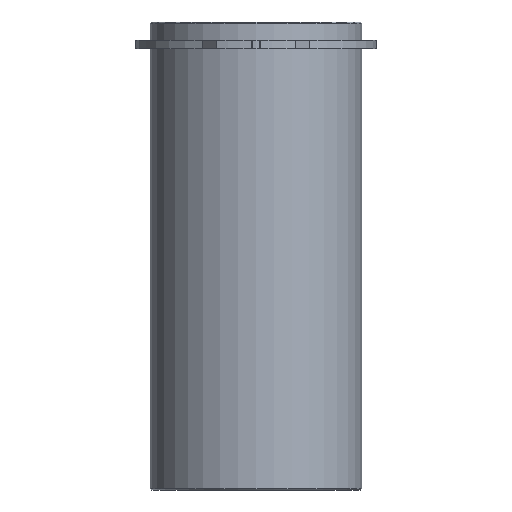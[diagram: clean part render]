
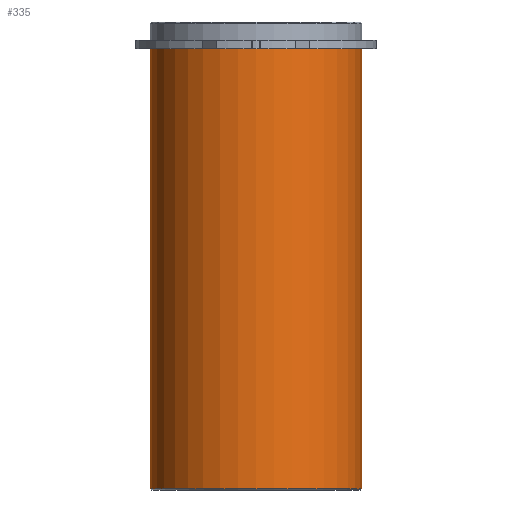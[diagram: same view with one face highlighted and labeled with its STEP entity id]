
A CAD part, front view. The second image highlights one B-rep face of the part: STEP entity #335.
In plain terms, the highlighted cylindrical face has radius 22.625 mm (diameter 45.25 mm), a partial arc.
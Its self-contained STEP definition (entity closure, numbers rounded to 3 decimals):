
#294=CARTESIAN_POINT('',(0.0,0.,-47.0));
#295=DIRECTION('',(0.0,0.,1.0));
#296=DIRECTION('',(1.0,0.0,0.0));
#297=AXIS2_PLACEMENT_3D('',#294,#295,#296);
#298=CYLINDRICAL_SURFACE('',#297,22.625);
#299=CARTESIAN_POINT('',(22.625,0.0,0.0));
#300=VERTEX_POINT('',#299);
#301=CARTESIAN_POINT('',(22.625,0.,-94.0));
#302=VERTEX_POINT('',#301);
#303=CARTESIAN_POINT('',(22.625,0.0,0.0));
#304=DIRECTION('',(0.0,0.0,-1.0));
#305=VECTOR('',#304,94.0);
#306=LINE('',#303,#305);
#307=EDGE_CURVE('',#300,#302,#306,.T.);
#308=ORIENTED_EDGE('',*,*,#307,.F.);
#309=CARTESIAN_POINT('',(-22.625,0.,0.0));
#310=VERTEX_POINT('',#309);
#311=CARTESIAN_POINT('',(0.0,0.0,0.0));
#312=DIRECTION('',(0.0,0.0,1.0));
#313=DIRECTION('',(1.0,0.0,0.0));
#314=AXIS2_PLACEMENT_3D('',#311,#312,#313);
#315=CIRCLE('',#314,22.625);
#316=EDGE_CURVE('',#310,#300,#315,.T.);
#317=ORIENTED_EDGE('',*,*,#316,.F.);
#318=CARTESIAN_POINT('',(-22.625,0.,-94.0));
#319=VERTEX_POINT('',#318);
#320=CARTESIAN_POINT('',(-22.625,0.,0.0));
#321=DIRECTION('',(0.0,0.0,-1.0));
#322=VECTOR('',#321,94.0);
#323=LINE('',#320,#322);
#324=EDGE_CURVE('',#310,#319,#323,.T.);
#325=ORIENTED_EDGE('',*,*,#324,.T.);
#326=CARTESIAN_POINT('',(0.0,0.,-94.0));
#327=DIRECTION('',(0.0,0.0,1.0));
#328=DIRECTION('',(1.0,0.0,0.0));
#329=AXIS2_PLACEMENT_3D('',#326,#327,#328);
#330=CIRCLE('',#329,22.625);
#331=EDGE_CURVE('',#319,#302,#330,.T.);
#332=ORIENTED_EDGE('',*,*,#331,.T.);
#333=EDGE_LOOP('',(#308,#317,#325,#332));
#334=FACE_OUTER_BOUND('',#333,.T.);
#335=ADVANCED_FACE('',(#334),#298,.T.);
